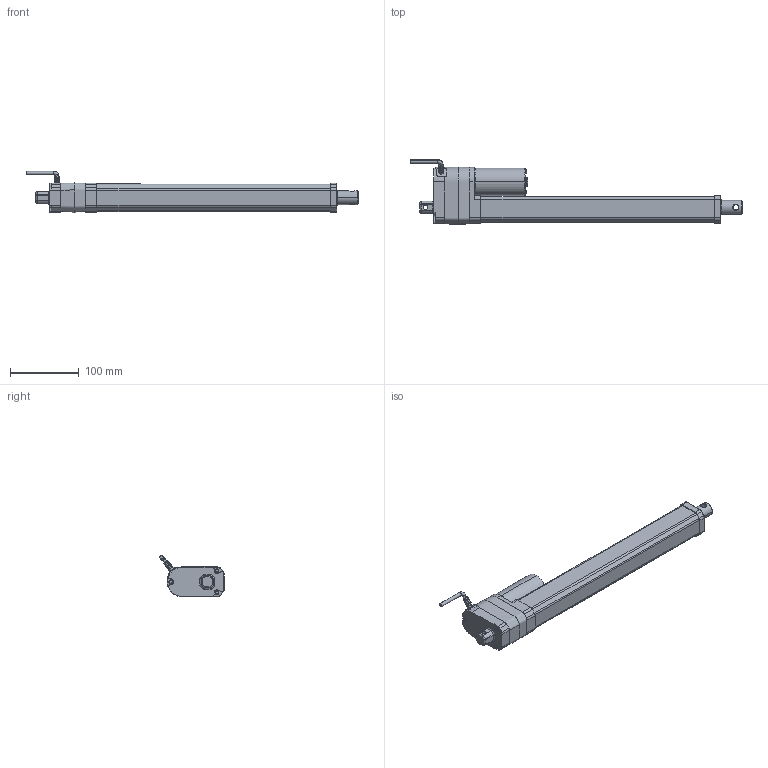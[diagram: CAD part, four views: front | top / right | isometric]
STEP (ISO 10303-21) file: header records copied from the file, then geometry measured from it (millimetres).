
FILE_DESCRIPTION((''),' ');
FILE_NAME('dszy11_300_pot.stp',' ',('r'),('r'),' ','ACIS 14.0',' ');
FILE_SCHEMA(('automotive_design'));
Length unit declared in the file: inch
Products named in the file (3): DSZY11-POT-300
Bounding box: 481.45 x 93.39 x 59.66 mm (x, y, z)
Volume: 428417.9 mm3; surface area: 171528.5 mm2
Topology: 3 solids, 3 shells, 320 faces, 842 edges, 551 vertices
Faces by surface type: cylinder 130, plane 121, torus 32, cone 20, bspline 13, sphere 4
Entity records: 13310 total; most frequent: CARTESIAN_POINT 2632, DIRECTION 1741, ORIENTED_EDGE 1672, EDGE_CURVE 836, AXIS2_PLACEMENT_3D 679, VERTEX_POINT 551, LINE 383, VECTOR 383
